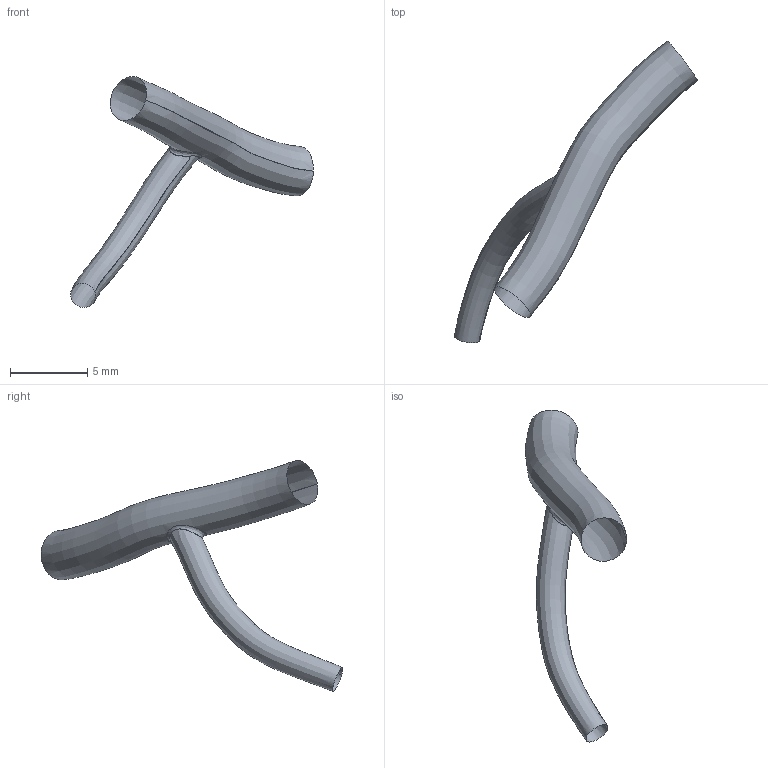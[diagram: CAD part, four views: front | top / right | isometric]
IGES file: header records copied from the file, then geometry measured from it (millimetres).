
Global section: file name: C:\Documents and Settings\Administrator\Desktop\FDA-Pig\Domestic LCA\Pig_000006\om.ed.igs; native system: Rhinoceros ( May 19 2006 ); preprocessor: Trout Lake IGES 012 May 19 2006; date: 111205.183626; units: centimetre
Bounding box: 15.77 x 19.58 x 14.99 mm (x, y, z)
Surface area: 284.9 mm2 (no closed solid volume)
Topology: 0 solids, 0 shells, 3 faces, 35 edges, 32 vertices
Faces by surface type: bspline 3
